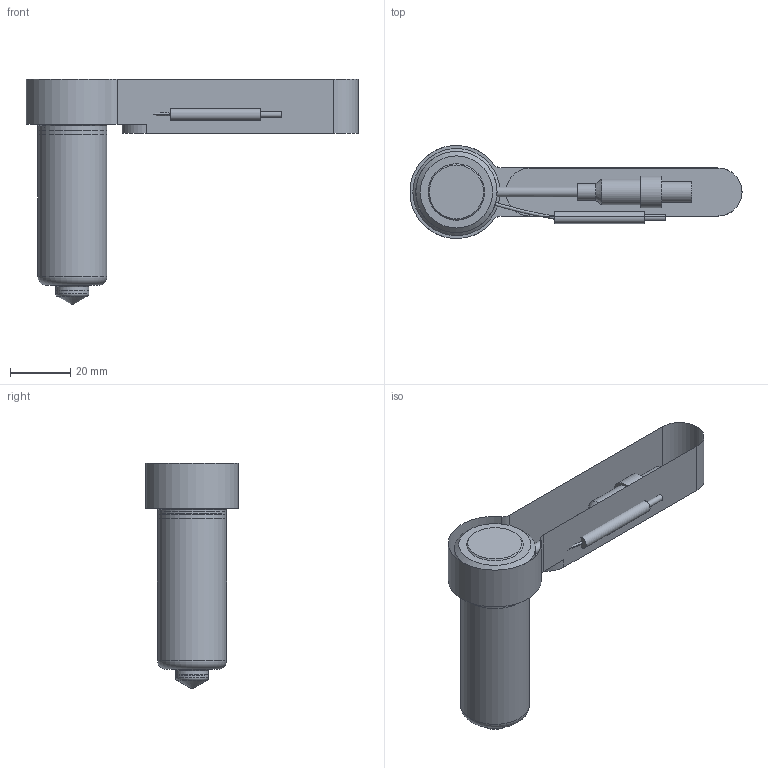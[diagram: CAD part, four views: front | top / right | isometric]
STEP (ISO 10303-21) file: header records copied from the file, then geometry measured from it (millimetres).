
FILE_DESCRIPTION(/* description */ (''),/* implementation_level */ '2;1');
FILE_NAME(/* name */ 'A1TN106011stp',/* time_stamp */ '2013-07-11T09:20:58+08:00',/* author */ (''),/* organization */ (''),/* preprocessor_version */ 'ST-DEVELOPER v11',/* originating_system */ 'UGS - NX 5.0',/* authorisation */ '');
FILE_SCHEMA (('AUTOMOTIVE_DESIGN { 1 0 10303 214 1 1 1 1 }'));
Length unit declared in the file: millimetre
Products named in the file (1): hlenADBAqyum
Bounding box: 110.44 x 30.92 x 75.15 mm (x, y, z)
Volume: 27909.4 mm3; surface area: 17875 mm2
Topology: 1 solids, 2 shells, 195 faces, 487 edges, 320 vertices
Faces by surface type: plane 131, cylinder 41, cone 16, torus 4, bspline 2, revolution 1
Full cylindrical faces by diameter (mm): 0.895 x1, 1.127 x1, 2 x1, 2.843 x1, 3.3 x1, 4 x2, 5.5 x1, 7 x1, 8.5 x1, 10.5 x1, 11 x2, 11.3 x1, 14.5 x1, 20 x1, 22.6 x1, 23 x2, 27 x1, 29 x1
Entity records: 6431 total; most frequent: CARTESIAN_POINT 1852, DIRECTION 995, ORIENTED_EDGE 860, EDGE_CURVE 433, AXIS2_PLACEMENT_3D 395, VERTEX_POINT 309, EDGE_LOOP 262, LINE 204
